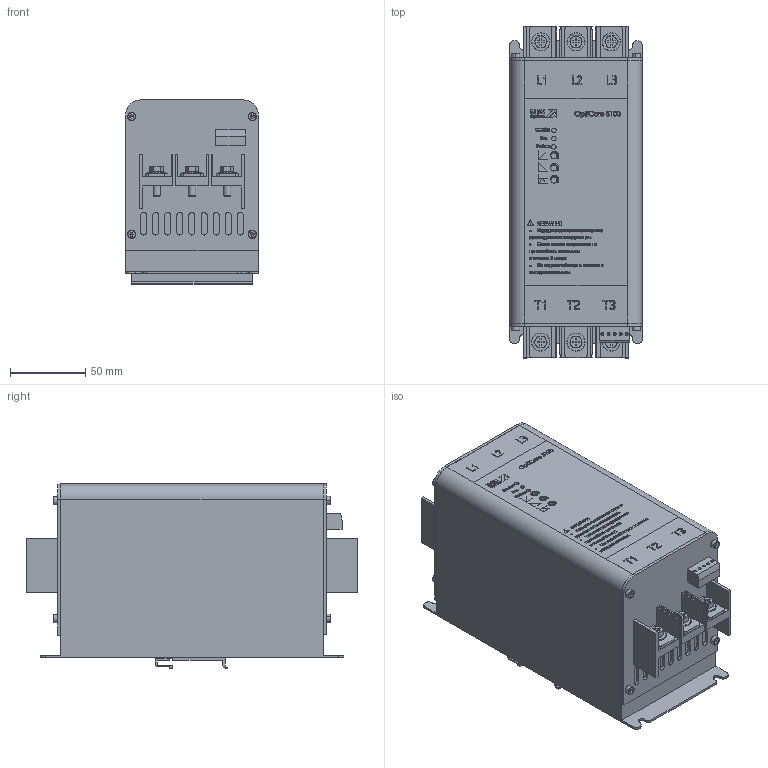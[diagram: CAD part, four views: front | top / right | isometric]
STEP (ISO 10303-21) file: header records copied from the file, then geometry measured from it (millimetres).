
FILE_DESCRIPTION (( 'STEP AP214' ), '1' );
FILE_NAME ('捘 OptiCore S100_5_37kW.STEP', '2023-07-27T07:34:19', ( '' ), ( '' ), 'SwSTEP 2.0', 'SolidWorks 2023', '' );
FILE_SCHEMA (( 'AUTOMOTIVE_DESIGN' ));
Length unit declared in the file: millimetre
Products named in the file (14): Деталь_P_Z; Клемма_c_Z; Клемма_c; Корпус_5_37; Клемма_L_Z_; Пластина; Клемма_L; Клемма вставная; Кронштейн; Деталь_P; socket head cap screw_din_DIN 912 M3 x 5 --- 5N; hex bolts with slot on head grade ab gb+_GB_FASTENER_BOLT_HBSH M5X16-Simplified; СБ OptiCore S100_5_37kW; Шайба
Assembly tree (31 placements, depth 2):
  СБ OptiCore S100_5_37kW
    Корпус_5_37
    Пластина  x2
    Деталь_P
    Деталь_P_Z
    Клемма_c
    Клемма_c_Z
    Клемма_L
    Клемма_L_Z_
    socket head cap screw_din_DIN 912 M3 x 5 --- 5N  x8
    Шайба  x6
    Кронштейн
    Клемма вставная
    hex bolts with slot on head grade ab gb+_GB_FASTENER_BOLT_HBSH M5X16-Simplified  x6
Bounding box: 88.04 x 219.98 x 122.21 mm (x, y, z)
Volume: 1830190.8 mm3; surface area: 172373.3 mm2
Topology: 37 solids, 37 shells, 4468 faces, 11869 edges, 7795 vertices
Faces by surface type: plane 2944, bspline 1013, cylinder 303, cone 152, torus 56
Entity records: 195864 total; most frequent: CARTESIAN_POINT 72701, ORIENTED_EDGE 21106, DIRECTION 14854, EDGE_CURVE 10553, LINE 8062, VECTOR 8062, VERTEX_POINT 7015, EDGE_LOOP 4316
